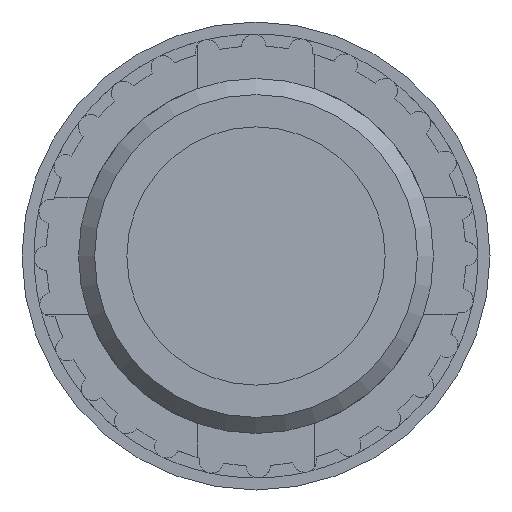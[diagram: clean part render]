
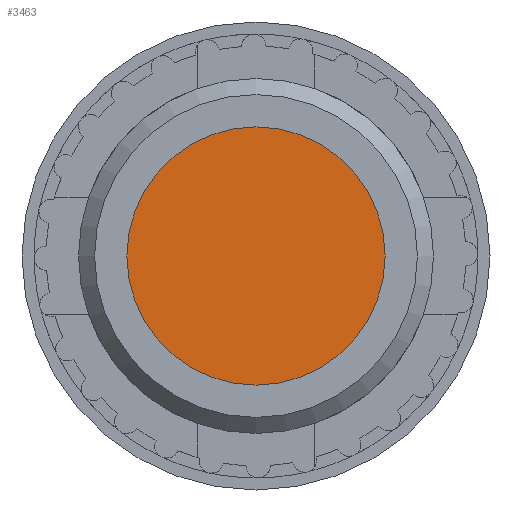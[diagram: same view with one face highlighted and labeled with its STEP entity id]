
A CAD part, front view. The second image highlights one B-rep face of the part: STEP entity #3463.
In plain terms, the highlighted planar face has unit normal (0, -1, 0).
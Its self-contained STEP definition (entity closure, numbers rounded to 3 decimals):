
#358=CIRCLE('',#3848,8.);
#1062=ORIENTED_EDGE('',*,*,#1417,.F.);
#1417=EDGE_CURVE('',#1642,#1642,#358,.T.);
#1642=VERTEX_POINT('',#5576);
#2040=EDGE_LOOP('',(#1062));
#2208=FACE_BOUND('',#2040,.T.);
#2267=PLANE('',#3849);
#3463=ADVANCED_FACE('',(#2208),#2267,.F.);
#3848=AXIS2_PLACEMENT_3D('',#5575,#4714,#4715);
#3849=AXIS2_PLACEMENT_3D('',#5577,#4716,#4717);
#4714=DIRECTION('',(0.,1.,0.));
#4715=DIRECTION('',(1.,0.,0.));
#4716=DIRECTION('',(0.,1.,0.));
#4717=DIRECTION('',(-1.,0.,0.));
#5575=CARTESIAN_POINT('',(0.,-18.,0.));
#5576=CARTESIAN_POINT('',(8.,-18.,0.));
#5577=CARTESIAN_POINT('',(0.,-18.,0.));
